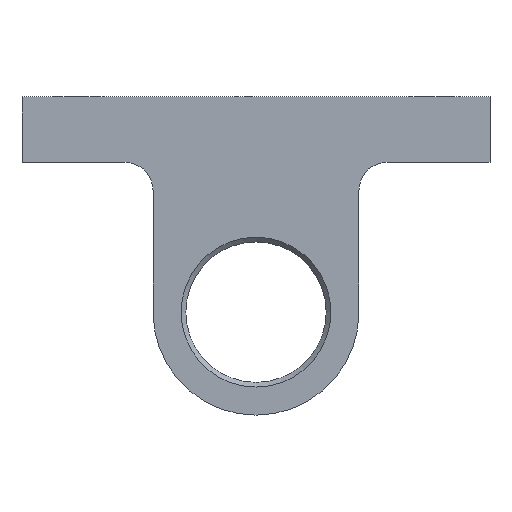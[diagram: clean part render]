
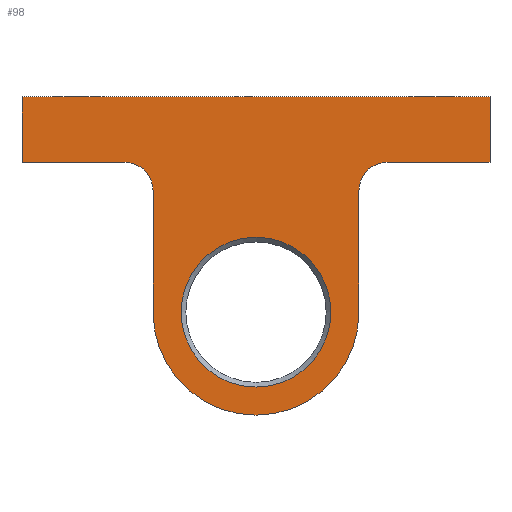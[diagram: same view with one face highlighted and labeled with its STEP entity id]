
A CAD part, front view. The second image highlights one B-rep face of the part: STEP entity #98.
In plain terms, the highlighted planar face has unit normal (0, -1, 0).
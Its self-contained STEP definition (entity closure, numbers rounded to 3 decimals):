
#98=ADVANCED_FACE('',(#253,#255),#257,.F.);
#253=FACE_BOUND('',#254,.T.);
#254=EDGE_LOOP('',(#367,#368,#369,#370,#371,#372,#373,#374,#375,#376));
#255=FACE_BOUND('',#256,.T.);
#256=EDGE_LOOP('',(#377));
#257=PLANE('',#258);
#258=AXIS2_PLACEMENT_3D('',#259,#260,#261);
#259=CARTESIAN_POINT('',(0.,0.,0.));
#260=DIRECTION('',(0.,1.,0.));
#261=DIRECTION('',(1.,0.,0.));
#367=ORIENTED_EDGE('',*,*,#439,.F.);
#368=ORIENTED_EDGE('',*,*,#437,.F.);
#369=ORIENTED_EDGE('',*,*,#440,.F.);
#370=ORIENTED_EDGE('',*,*,#428,.F.);
#371=ORIENTED_EDGE('',*,*,#441,.F.);
#372=ORIENTED_EDGE('',*,*,#424,.F.);
#373=ORIENTED_EDGE('',*,*,#442,.F.);
#374=ORIENTED_EDGE('',*,*,#443,.F.);
#375=ORIENTED_EDGE('',*,*,#444,.F.);
#376=ORIENTED_EDGE('',*,*,#445,.F.);
#377=ORIENTED_EDGE('',*,*,#446,.T.);
#424=EDGE_CURVE('',#461,#464,#465,.T.);
#428=EDGE_CURVE('',#471,#472,#473,.T.);
#437=EDGE_CURVE('',#488,#483,#490,.T.);
#439=EDGE_CURVE('',#483,#493,#494,.F.);
#440=EDGE_CURVE('',#472,#488,#495,.T.);
#441=EDGE_CURVE('',#464,#471,#496,.T.);
#442=EDGE_CURVE('',#497,#461,#498,.F.);
#443=EDGE_CURVE('',#499,#497,#500,.T.);
#444=EDGE_CURVE('',#501,#499,#502,.T.);
#445=EDGE_CURVE('',#493,#501,#503,.T.);
#446=EDGE_CURVE('',#504,#504,#505,.T.);
#461=VERTEX_POINT('',#527);
#464=VERTEX_POINT('',#532);
#465=LINE('',#533,#534);
#471=VERTEX_POINT('',#548);
#472=VERTEX_POINT('',#549);
#473=LINE('',#550,#551);
#483=VERTEX_POINT('',#574);
#488=VERTEX_POINT('',#583);
#490=LINE('',#587,#588);
#493=VERTEX_POINT('',#595);
#494=CIRCLE('',#596,3.);
#495=LINE('',#600,#601);
#496=LINE('',#603,#604);
#497=VERTEX_POINT('',#606);
#498=CIRCLE('',#607,3.);
#499=VERTEX_POINT('',#611);
#500=LINE('',#612,#613);
#501=VERTEX_POINT('',#615);
#502=CIRCLE('',#616,11.);
#503=LINE('',#620,#621);
#504=VERTEX_POINT('',#623);
#505=CIRCLE('',#624,8.);
#527=CARTESIAN_POINT('',(-14.,0.,16.));
#532=CARTESIAN_POINT('',(-25.,0.,16.));
#533=CARTESIAN_POINT('',(-14.,0.,16.));
#534=VECTOR('',#535,1.);
#535=DIRECTION('',(-1.,0.,0.));
#548=CARTESIAN_POINT('',(-25.,0.,23.));
#549=CARTESIAN_POINT('',(25.,0.,23.));
#550=CARTESIAN_POINT('',(-25.,0.,23.));
#551=VECTOR('',#552,1.);
#552=DIRECTION('',(1.,0.,0.));
#574=CARTESIAN_POINT('',(14.,0.,16.));
#583=CARTESIAN_POINT('',(25.,0.,16.));
#587=CARTESIAN_POINT('',(25.,0.,16.));
#588=VECTOR('',#589,1.);
#589=DIRECTION('',(-1.,0.,0.));
#595=CARTESIAN_POINT('',(11.,0.,13.));
#596=AXIS2_PLACEMENT_3D('',#597,#598,#599);
#597=CARTESIAN_POINT('',(14.,0.,13.));
#598=DIRECTION('',(0.,1.,0.));
#599=DIRECTION('',(-1.,0.,0.));
#600=CARTESIAN_POINT('',(25.,0.,23.));
#601=VECTOR('',#602,1.);
#602=DIRECTION('',(0.,0.,-1.));
#603=CARTESIAN_POINT('',(-25.,0.,16.));
#604=VECTOR('',#605,1.);
#605=DIRECTION('',(0.,0.,1.));
#606=CARTESIAN_POINT('',(-11.,0.,13.));
#607=AXIS2_PLACEMENT_3D('',#608,#609,#610);
#608=CARTESIAN_POINT('',(-14.,0.,13.));
#609=DIRECTION('',(0.,1.,0.));
#610=DIRECTION('',(0.,0.,1.));
#611=CARTESIAN_POINT('',(-11.,0.,0.));
#612=CARTESIAN_POINT('',(-11.,0.,0.));
#613=VECTOR('',#614,1.);
#614=DIRECTION('',(0.,0.,1.));
#615=CARTESIAN_POINT('',(11.,0.,0.));
#616=AXIS2_PLACEMENT_3D('',#617,#618,#619);
#617=CARTESIAN_POINT('',(0.,0.,0.));
#618=DIRECTION('',(0.,1.,0.));
#619=DIRECTION('',(1.,0.,0.));
#620=CARTESIAN_POINT('',(11.,0.,13.));
#621=VECTOR('',#622,1.);
#622=DIRECTION('',(0.,0.,-1.));
#623=CARTESIAN_POINT('',(8.,0.,0.));
#624=AXIS2_PLACEMENT_3D('',#625,#626,#627);
#625=CARTESIAN_POINT('',(0.,0.,0.));
#626=DIRECTION('',(0.,1.,0.));
#627=DIRECTION('',(1.,0.,0.));
